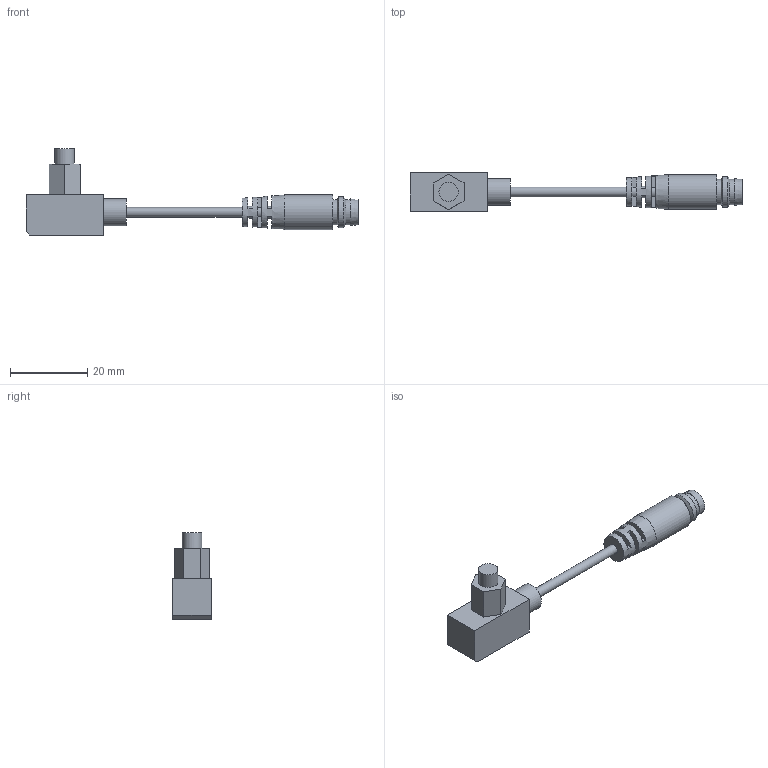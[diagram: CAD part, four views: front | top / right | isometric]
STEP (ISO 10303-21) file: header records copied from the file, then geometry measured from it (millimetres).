
FILE_DESCRIPTION(/* description */ ('MINI VACUOSTATO DIGITALE MASC.M5x0,8 CAVO 150m CONNETT.M8'),/* implementation_level */ '2;1');
FILE_NAME(/* name */ 'C:\PNX_VAULTFOLDER\Area Tecnica\Disegni\VARIE-3D\Componenti\1900 (vuoto)\DS_10_V_B_F4_A_1.stp',/* time_stamp */ '2019-09-13T14:42:56+02:00',/* author */ ('maniean1'),/* organization */ (''),/* preprocessor_version */ 'ST-DEVELOPER v17',/* originating_system */ 'Autodesk Inventor 2019',/* authorisation */ '');
FILE_SCHEMA (('AUTOMOTIVE_DESIGN { 1 0 10303 214 3 1 1 }'));
Length unit declared in the file: millimetre
Products named in the file (3): DS.10.V.B.F4.A.1; DS.10.V.B.F4.E.0; 1590 connettore
Assembly tree (2 placements, depth 2):
  DS.10.V.B.F4.A.1
    DS.10.V.B.F4.E.0
    1590 connettore
Bounding box: 86 x 10 x 22.5 mm (x, y, z)
Volume: 4364.1 mm3; surface area: 2901.6 mm2
Topology: 2 solids, 2 shells, 77 faces, 176 edges, 120 vertices
Faces by surface type: plane 55, cylinder 18, cone 4
Full cylindrical faces by diameter (mm): 1 x3, 2.5 x1, 5 x2, 5.8 x1, 6.5 x2, 7 x1, 8 x1, 9 x1
Entity records: 2326 total; most frequent: CARTESIAN_POINT 402, DIRECTION 394, ORIENTED_EDGE 352, EDGE_CURVE 176, AXIS2_PLACEMENT_3D 148, VERTEX_POINT 120, LINE 98, VECTOR 98
